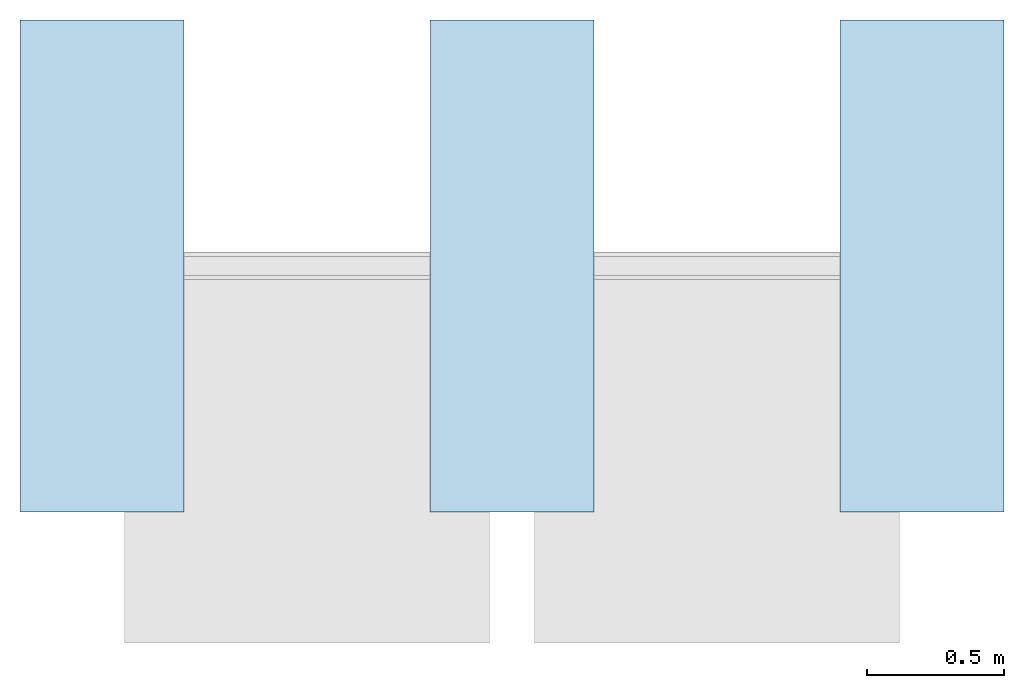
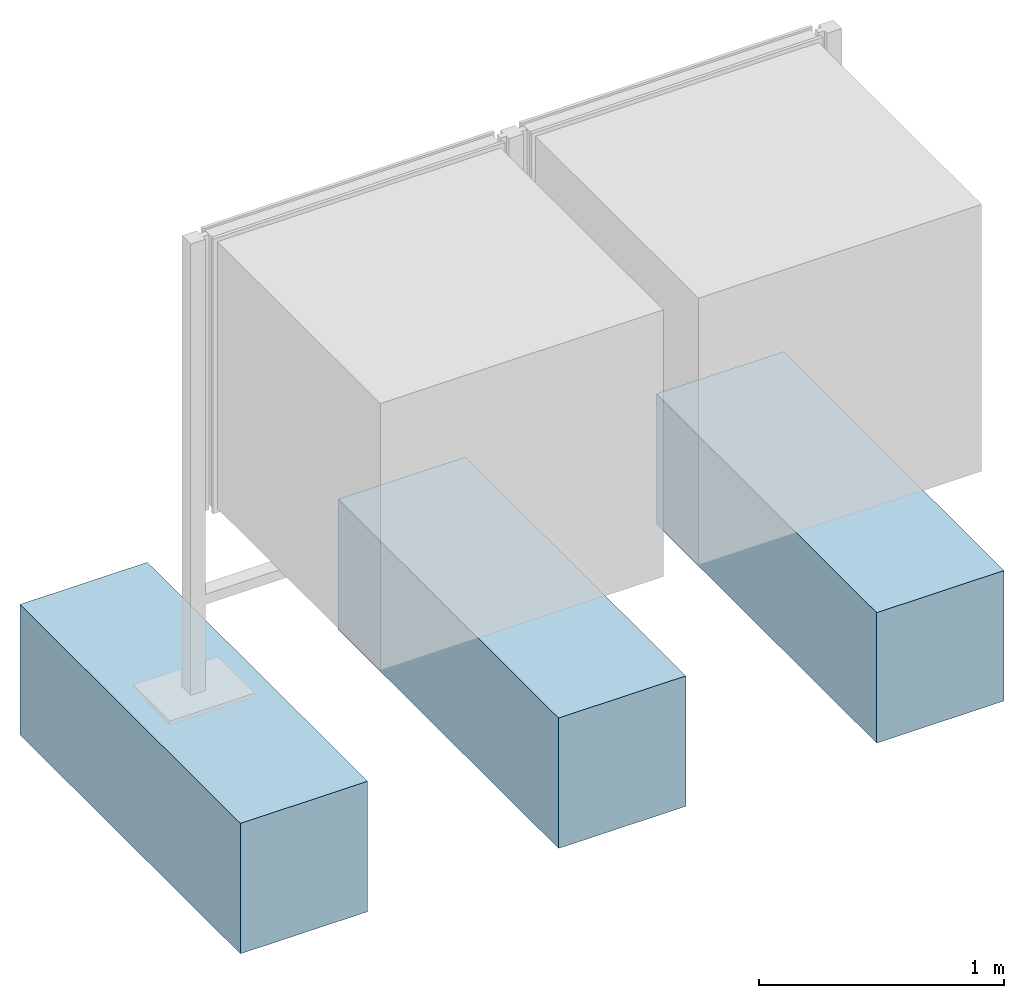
# One storey, incomplete: 3 slabs.
"""IFC4 building model written with IfcOpenShell, lengths in metres."""

from ifc_helpers import new_model, entity, si_unit, converted_unit, direction, frame, frame_2d, origin, origin_2d_with_axis, place, context, subcontext, project, spatial, rectangle, extrude, material, type_object, element, save


model = new_model("IFC4")

# Units and contexts
model_context = context("Model", 3, precision=1e-05, world=origin(), true_north=direction((6.123031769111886e-17, 1.0)))
body_context = subcontext(model_context, "Body", "Model", "MODEL_VIEW")
ifc_project = project(units=[si_unit("LENGTHUNIT", "METRE"), converted_unit("PLANEANGLEUNIT", "DEGREE", entity("IfcPlaneAngleMeasure", 0.017453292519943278), si_unit("PLANEANGLEUNIT", "RADIAN"), dimensions=[0, 0, 0, 0, 0, 0, 0]), si_unit("AREAUNIT", "SQUARE_METRE")], contexts=[model_context])

# Site, building, storey
site_placement = place(None, origin())
site = spatial("IfcSite", under=ifc_project, at=site_placement, Name="Default", CompositionType="ELEMENT")
building_placement = place(site_placement, origin())
building = spatial("IfcBuilding", under=site, at=building_placement, CompositionType="ELEMENT")
storey_placement = place(building_placement, origin())
storey = spatial("IfcBuildingStorey", under=building, at=storey_placement, Name="DB_Bezugshoehe_max_Bahnsteigkante", CompositionType="ELEMENT", Elevation=0.0)

# Slabs
ifc_material = material(Name="DB_Ortbeton", Category="DB_Beton")
slab_type = type_object("IfcSlabType", Name="DB_Vitrine_Fundament:DB_Vitrine_Fundament", PredefinedType="BASESLAB", material=ifc_material)
slab_1_placement = place(storey_placement, origin())
element("IfcSlab", 1, at=slab_1_placement, inside=storey, type_object=slab_type, Name="DB_Vitrine_Fundament:DB_Vitrine_Fundament", ObjectType="DB_Vitrine_Fundament:DB_Vitrine_Fundament", PredefinedType="BASESLAB", context=body_context, shape_type="SweptSolid", body=[
    extrude(rectangle(XDim=1.8, YDim=0.5999999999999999, at=origin_2d_with_axis()), frame((0.0, 0.0, 0.04999999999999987), z_axis=(0.0, 0.0, 1.0), x_axis=(0.0, 1.0, 0.0)), (0.0, 0.0, 1.0), 0.5999999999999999),
    extrude(rectangle(XDim=0.5999999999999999, YDim=1.7999999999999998, at=origin_2d_with_axis()), frame((0.0, 0.0, 0.0), z_axis=(0.0, 0.0, 1.0), x_axis=(-1.0, 0.0, 0.0)), (0.0, 0.0, 1.0), 0.04999999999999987),
])
slab_2_placement = place(storey_placement, origin())
element("IfcSlab", 2, at=slab_2_placement, inside=storey, type_object=slab_type, Name="DB_Vitrine_Fundament:DB_Vitrine_Fundament", ObjectType="DB_Vitrine_Fundament:DB_Vitrine_Fundament", PredefinedType="BASESLAB", context=body_context, shape_type="SweptSolid", body=[
    extrude(rectangle(XDim=1.8, YDim=0.5999999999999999, at=frame_2d((0.0, -8.326672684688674e-17), x_axis=(1.0, 0.0))), frame((1.5000000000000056, 0.0, 0.04999999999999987), z_axis=(0.0, 0.0, 1.0), x_axis=(0.0, 1.0, 0.0)), (0.0, 0.0, 1.0), 0.5999999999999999),
    extrude(rectangle(XDim=0.6000000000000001, YDim=1.7999999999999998, at=origin_2d_with_axis()), frame((1.5000000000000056, 0.0, 0.0), z_axis=(0.0, 0.0, 1.0), x_axis=(-1.0, 0.0, 0.0)), (0.0, 0.0, 1.0), 0.04999999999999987),
])
slab_3_placement = place(storey_placement, origin())
element("IfcSlab", 3, at=slab_3_placement, inside=storey, type_object=slab_type, Name="DB_Vitrine_Fundament:DB_Vitrine_Fundament", ObjectType="DB_Vitrine_Fundament:DB_Vitrine_Fundament", PredefinedType="BASESLAB", context=body_context, shape_type="SweptSolid", body=[
    extrude(rectangle(XDim=1.8, YDim=0.6000000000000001, at=origin_2d_with_axis()), frame((3.0, 0.0, 0.04999999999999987), z_axis=(0.0, 0.0, 1.0), x_axis=(0.0, 1.0, 0.0)), (0.0, 0.0, 1.0), 0.5999999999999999),
    extrude(rectangle(XDim=0.6000000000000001, YDim=1.7999999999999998, at=origin_2d_with_axis()), frame((3.0, 0.0, 0.0), z_axis=(0.0, 0.0, 1.0), x_axis=(-1.0, 0.0, 0.0)), (0.0, 0.0, 1.0), 0.04999999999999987),
])

save(model, "model.ifc")
